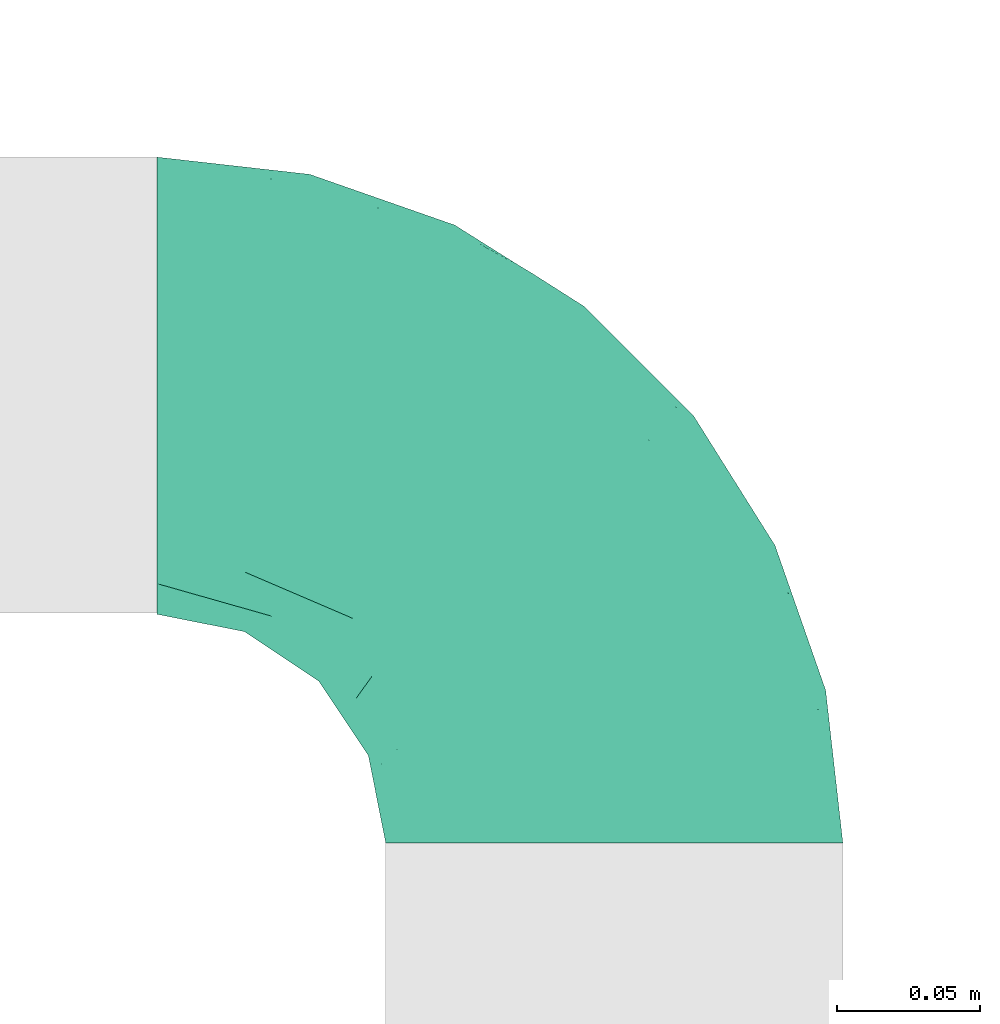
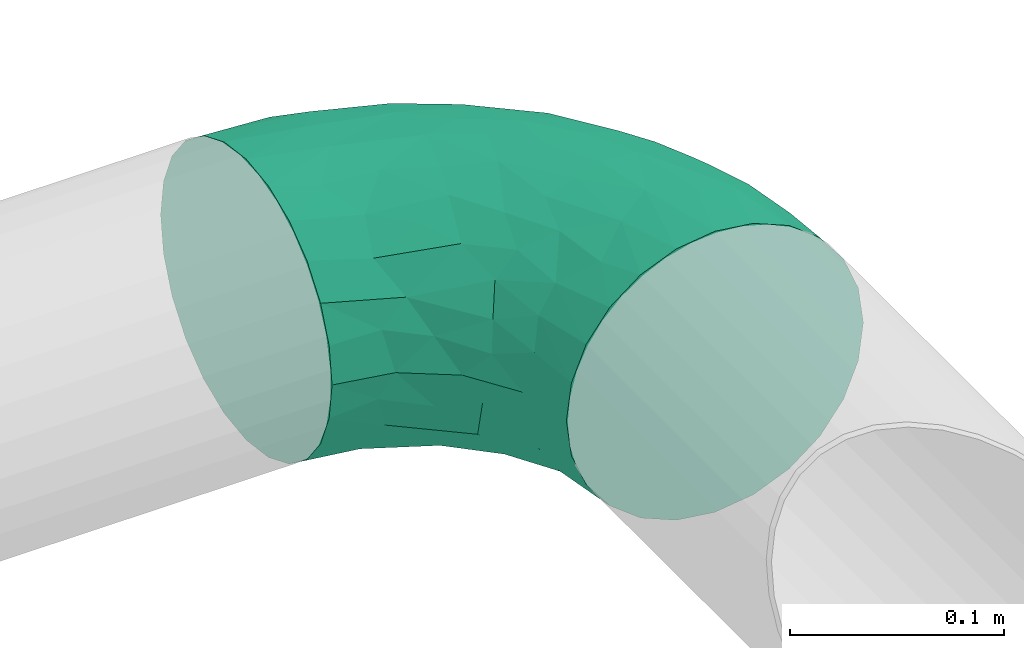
# One storey, part 7 of 10: 1 flow fitting.
"""IFC2X3 building model written with IfcOpenShell, lengths in millimetres."""

from ifc_helpers import new_model, entity, si_unit, converted_unit, derived_unit, direction, frame, origin_with_axes, place, context, subcontext, project, spatial, open_shell, surface_model, source, transform, mapped, type_object, element, save


model = new_model("IFC2X3")

# Units and contexts
model_context = context("Model", 3, precision=0.01, world=frame((0.0, 4.29681676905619e-09, 0.0)), true_north=direction((4.01073788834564e-13, 1.0)))
plan_context = context("Plan", 3, precision=0.01, world=frame((0.0, 4.29681676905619e-09, 0.0)), true_north=direction((4.01073788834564e-13, 1.0)))
body_context = subcontext(model_context, "Body", "Model", "MODEL_VIEW")
ifc_project = project(units=[converted_unit("PLANEANGLEUNIT", "DEGREE", entity("IfcPositiveLengthMeasure", 0.0174532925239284), si_unit("PLANEANGLEUNIT", "RADIAN"), dimensions=[0, 0, 0, 0, 0, 0, 0]), si_unit("AREAUNIT", "SQUARE_METRE"), si_unit("LENGTHUNIT", "METRE", prefix="MILLI"), si_unit("MASSUNIT", "GRAM", prefix="KILO"), si_unit("POWERUNIT", "WATT"), si_unit("PRESSUREUNIT", "PASCAL"), si_unit("FORCEUNIT", "NEWTON", prefix="KILO"), si_unit("ELECTRICCURRENTUNIT", "AMPERE"), si_unit("THERMODYNAMICTEMPERATUREUNIT", "DEGREE_CELSIUS"), si_unit("TIMEUNIT", "SECOND"), si_unit("VOLUMEUNIT", "CUBIC_METRE"), derived_unit("LINEARVELOCITYUNIT", [(si_unit("LENGTHUNIT", "METRE"), 1), (si_unit("TIMEUNIT", "SECOND"), -1)]), derived_unit("VOLUMETRICFLOWRATEUNIT", [(si_unit("VOLUMEUNIT", "CUBIC_METRE"), 1), (si_unit("TIMEUNIT", "SECOND"), -1)]), derived_unit("THERMALTRANSMITTANCEUNIT", [(si_unit("POWERUNIT", "WATT"), 1), (si_unit("THERMODYNAMICTEMPERATUREUNIT", "KELVIN"), -1), (si_unit("AREAUNIT", "SQUARE_METRE"), -1)])], contexts=[model_context, plan_context])

# Site, building, storey
site_placement = place(None, frame((0.0, -4.29681676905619e-09, 0.0), z_axis=(0.0, 0.0, 1.0), x_axis=(1.0, 0.0, 0.0)))
site = spatial("IfcSite", under=ifc_project, at=site_placement, CompositionType="ELEMENT")
building_placement = place(site_placement, frame((0.0, 4.29681676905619e-09, 0.0), z_axis=(0.0, 0.0, 1.0), x_axis=(1.0, 0.0, 0.0)))
building = spatial("IfcBuilding", under=site, at=building_placement, Name="mc-building", CompositionType="ELEMENT")
storey_placement = place(building_placement, frame((0.0, 0.0, 200300.0), z_axis=(0.0, 0.0, 1.0), x_axis=(1.0, 0.0, 0.0)))
storey = spatial("IfcBuildingStorey", under=building, at=storey_placement, Name="Nivå C", CompositionType="ELEMENT", Elevation=200300.0)

# Flow fitting
duct_fitting_type = type_object("IfcDuctFittingType", Name="magicirc_elbow_full_radius_001", PredefinedType="BEND")
shared_shape = source(origin_with_axes(), body_context, "Body", "SurfaceModel", [
    surface_model("IfcShellBasedSurfaceModel", [(-160.0, 40.0, -69.28203), (-160.0, 20.70552, -77.27406), (-160.0, 56.56854, -56.56854), (-160.0, 77.27406, -20.70552), (-160.0, 69.28203, -40.0), (-160.0, -80.0, 0.0), (-160.0, 69.28203, 40.0), (-160.0, -40.0, -69.28203), (-160.0, -56.56854, -56.56854), (-160.0, -20.70552, -77.27406), (-160.0, 0.0, -80.0), (-160.0, -77.27406, -20.70552), (-160.0, -69.28203, -40.0), (-160.0, 80.0, 0.0), (-160.0, 77.27406, 20.70552), (-160.0, 20.70552, 77.27406), (-160.0, 40.0, 69.28203), (-160.0, 56.56854, 56.56854), (-160.0, -56.56854, 56.56854), (-160.0, -77.27406, 20.70552), (-160.0, -69.28203, 40.0), (-160.0, -40.0, 69.28203), (-160.0, -20.70552, 77.27406), (-160.0, 0.0, 80.0), (-56.56854, 160.0, -56.56854), (0.0, 160.0, -80.0), (-20.70552, 160.0, -77.27406), (-40.0, 160.0, -69.28203), (-69.28203, 160.0, -40.0), (-77.27406, 160.0, -20.70552), (80.0, 160.0, 0.0), (-69.28203, 160.0, 40.0), (20.70552, 160.0, -77.27406), (56.56854, 160.0, -56.56854), (40.0, 160.0, -69.28203), (69.28203, 160.0, -40.0), (77.27406, 160.0, -20.70552), (-80.0, 160.0, 0.0), (-77.27406, 160.0, 20.70552), (-20.70552, 160.0, 77.27406), (-40.0, 160.0, 69.28203), (-56.56854, 160.0, 56.56854), (69.28203, 160.0, 40.0), (77.27406, 160.0, 20.70552), (56.56854, 160.0, 56.56854), (20.70552, 160.0, 77.27406), (40.0, 160.0, 69.28203), (0.0, 160.0, 80.0), (-7.67266, -21.79675, 21.05868), (8.63855, -8.63855, 0.0), (17.96443, 2.02525, 17.92911), (-140.16743, -77.7654, 0.0), (-106.59497, -73.9827, 0.0), (29.723, 108.68797, 71.16791), (-113.34063, -71.33168, 25.00935), (-123.58725, -11.32442, 78.55215), (-114.19463, 11.05185, 79.89136), (-120.89343, -62.92105, 44.73211), (-136.99007, 48.21133, 65.545), (-125.7428, 66.03381, 52.93316), (-72.81456, -60.8982, 19.91644), (-77.58343, -53.98906, 39.94873), (-42.50524, -35.90229, 41.43184), (-78.86833, -44.65396, 52.74557), (-108.99664, -47.43106, 59.38038), (-29.52166, 137.08777, 75.11566), (-10.11947, 120.85712, 79.83775), (-127.20537, 76.05333, 38.95505), (-33.44529, 31.50023, 77.36687), (-34.69782, 11.8754, 72.40877), (-3.9576, 41.66922, 71.52512), (26.83187, 21.52362, 33.70108), (11.94711, 15.99749, 47.62133), (4.03845, -4.03845, 34.90131), (-18.64804, 58.23046, 78.73392), (1.70441, 78.44684, 77.16576), (-24.59292, 77.35902, 79.98833), (-125.32148, 30.47275, 75.68771), (-120.22316, -31.11828, 71.8331), (13.78959, 36.02184, 59.49761), (-18.41896, 8.35587, 64.39884), (-132.46869, 81.36377, 22.79543), (-109.35207, 90.31178, 30.75773), (-113.43236, 93.30979, 14.57874), (-10.36245, -27.63956, 0.0), (-36.91073, -42.2953, 22.39915), (-49.76605, 124.95383, 66.59528), (-101.74646, 84.83423, 46.77127), (-83.4551, 69.09578, 68.59861), (-57.8183, 57.8183, 78.48541), (-61.03511, 86.31331, 71.12888), (-80.8816, 133.85749, 22.82614), (11.25, 122.68883, 78.52964), (-88.50247, 50.40579, 74.50178), (-88.28983, 33.35155, 78.68251), (48.70462, 119.33927, 60.25141), (72.29282, 119.98009, 25.83104), (-59.34673, 32.67512, 79.9668), (-85.16996, 17.5912, 79.99524), (-55.81318, 11.32632, 77.0441), (-85.00849, -30.99985, 66.01123), (61.00402, 106.81813, 43.23186), (-63.63219, 104.75463, 63.29969), (-65.20844, 129.34523, 52.48684), (-81.52275, 91.34159, 57.39681), (-80.52734, 120.37798, 36.48088), (-92.79431, 112.52422, 18.97703), (77.7654, 140.16743, 0.0), (45.79804, 48.13306, 29.8135), (39.33304, 28.76653, 14.61158), (-86.08964, 129.38533, 0.0), (-103.43146, 103.43146, 0.0), (38.36592, 71.69521, 55.99832), (-129.38533, 86.08964, 0.0), (-33.86953, 107.56813, 76.49949), (18.04365, 71.78656, 70.01725), (62.2021, 82.62707, 27.05087), (52.38442, 74.10967, 40.32307), (-18.93284, -12.03044, 49.97072), (-81.23144, -65.10761, 0.0), (-55.8679, -56.23253, 0.0), (35.27083, 45.78049, 44.88351), (-100.73084, 72.28591, 58.89814), (-54.51985, -28.62932, 57.01532), (-52.59501, -10.07531, 68.60505), (-46.29588, 82.13982, 76.86014), (-38.63384, 52.61378, 79.97363), (-82.56986, -3.10078, 77.31631), (-108.41978, 53.99493, 68.019), (27.63956, 10.36245, 0.0), (41.93604, 33.11518, 0.0), (54.6063, 56.19906, 15.96171), (65.10761, 81.23144, 0.0), (73.9827, 106.59497, 0.0), (-33.11518, -41.93604, 0.0), (56.23253, 55.8679, 0.0), (-141.1977, 47.96131, -65.17319), (-64.44895, -19.03971, -67.4984), (-103.35167, -28.84014, -70.84909), (-70.80597, -2.08408, -75.9918), (-126.24815, 9.57583, -79.78686), (-92.41851, 111.96589, -21.39074), (-124.421, 30.58775, -75.73032), (-89.68718, 45.45889, -75.79365), (-72.7608, 72.76079, -71.12383), (-50.5252, 60.84727, -79.04915), (-131.39164, 83.13047, -17.86609), (-77.1981, 130.02354, -34.99688), (-109.68436, 96.08636, -14.59494), (-99.17231, 92.66183, -40.04471), (3.27066, -3.27066, -37.05737), (23.87018, 16.11689, -31.6452), (7.48215, -9.43108, -16.69956), (-127.69248, 65.57033, -52.69138), (-129.61888, 77.314, -35.05803), (14.19084, 23.61418, -51.48454), (6.36549, 39.84455, -65.9943), (-25.94451, -2.03239, -62.20998), (-26.59802, 26.59801, -74.69048), (-115.41173, 51.90171, -67.41842), (-118.93035, -72.15419, -25.70176), (-135.39431, -63.9394, -46.23407), (-49.36384, 127.30443, -66.39144), (-31.70102, 117.35326, -76.05932), (32.6897, 37.51953, -41.6191), (-117.97423, -48.56637, -60.13786), (-34.90372, -29.85168, -43.15761), (-38.30539, -41.45281, -26.85807), (-65.92648, -49.3744, -39.5542), (-102.66536, -60.2608, -42.78019), (-62.2887, -34.90476, -55.07246), (72.15419, 118.93035, -25.70176), (60.87615, 76.45775, -24.52708), (60.2608, 102.66536, -42.78019), (-135.79353, -31.90262, -72.68345), (-76.45775, -60.87615, -24.52708), (-16.2755, -23.90667, -31.80484), (41.45281, 38.30539, -26.85807), (29.85056, 15.89181, -16.16732), (10.9954, 119.95821, -78.46006), (-82.01415, 136.57063, -15.05464), (-119.95822, -10.9954, -78.46006), (48.56636, 117.97423, -60.13786), (31.90262, 135.79353, -72.68345), (-9.57583, 126.24814, -79.78686), (63.9394, 135.39431, -46.23407), (49.3744, 65.92648, -39.5542), (-16.01966, -29.80786, -16.69762), (-63.81137, 36.54386, -79.9236), (-30.67208, 51.19767, -79.49125), (-53.65888, 23.04044, -78.87036), (2.08408, 70.80596, -75.9918), (28.84014, 103.35167, -70.84909), (34.90476, 62.2887, -55.07246), (-17.62209, 87.93848, -79.99888), (18.59902, 70.56114, -69.43027), (-95.91193, 73.87581, -60.23528), (-37.74115, 88.00927, -77.92086), (-63.46095, 140.83483, -51.07129), (-68.41389, 95.24352, -64.12485), (-51.13608, 97.13293, -72.27976), (-83.6892, 93.72418, -54.10776), (-87.93848, 17.62208, -79.99888), (-43.59797, 2.06669, -71.34384), (-69.04822, 115.75437, -54.18349), (-8.80879, -2.12536, -50.94302)], [open_shell([[[0, 1, 2]], [[3, 4, 2]], [[2, 5, 6]], [[7, 8, 9]], [[8, 10, 9]], [[11, 5, 12]], [[8, 12, 5]], [[8, 5, 2]], [[13, 3, 2]], [[6, 14, 13]], [[5, 15, 6]], [[6, 15, 16]], [[17, 6, 16]], [[18, 15, 5]], [[19, 20, 5]], [[5, 20, 18]], [[21, 22, 18]], [[22, 15, 18]], [[15, 22, 23]], [[6, 13, 2]], [[24, 25, 26]], [[24, 26, 27]], [[24, 28, 29]], [[25, 24, 30]], [[31, 30, 24]], [[32, 33, 34]], [[32, 25, 33]], [[35, 30, 36]], [[30, 35, 33]], [[25, 30, 33]], [[24, 29, 37]], [[37, 38, 31]], [[31, 39, 30]], [[40, 39, 31]], [[40, 31, 41]], [[30, 42, 43]], [[44, 42, 30]], [[44, 45, 46]], [[47, 45, 39]], [[24, 37, 31]], [[48, 49, 50]], [[51, 52, 19]], [[53, 46, 45]], [[54, 20, 19]], [[54, 19, 52]], [[23, 55, 56]], [[20, 57, 18]], [[17, 58, 59]], [[54, 60, 61]], [[62, 63, 61]], [[64, 18, 57]], [[39, 65, 66]], [[6, 59, 67]], [[68, 69, 70]], [[71, 72, 73]], [[22, 55, 23]], [[74, 75, 76]], [[16, 15, 77]], [[21, 64, 78]], [[79, 70, 80]], [[77, 15, 56]], [[59, 6, 17]], [[81, 13, 14]], [[81, 82, 83]], [[84, 48, 85]], [[40, 41, 86]], [[82, 67, 87]], [[88, 89, 90]], [[17, 16, 58]], [[23, 56, 15]], [[64, 21, 18]], [[31, 38, 91]], [[47, 92, 45]], [[93, 77, 94]], [[44, 46, 95]], [[43, 42, 96]], [[97, 98, 99]], [[47, 39, 66]], [[64, 100, 78]], [[96, 42, 101]], [[66, 92, 47]], [[95, 46, 53]], [[102, 103, 104]], [[87, 105, 82]], [[82, 105, 106]], [[96, 107, 43]], [[91, 106, 105]], [[21, 78, 22]], [[108, 71, 109]], [[37, 110, 91]], [[91, 110, 106]], [[106, 111, 83]], [[44, 101, 42]], [[111, 106, 110]], [[95, 112, 101]], [[103, 86, 41]], [[83, 111, 113]], [[90, 114, 86]], [[79, 115, 70]], [[116, 117, 108]], [[75, 70, 115]], [[86, 114, 65]], [[65, 39, 40]], [[72, 118, 73]], [[64, 57, 63]], [[116, 96, 101]], [[119, 120, 60]], [[66, 76, 75]], [[57, 54, 61]], [[121, 108, 117]], [[50, 109, 71]], [[87, 122, 104]], [[81, 67, 82]], [[41, 31, 103]], [[90, 102, 104]], [[76, 66, 114]], [[92, 75, 53]], [[62, 118, 123]], [[123, 124, 100]], [[104, 122, 88]], [[125, 114, 90]], [[125, 76, 114]], [[89, 94, 97]], [[126, 89, 97]], [[99, 124, 69]], [[117, 116, 101]], [[86, 65, 40]], [[112, 95, 53]], [[101, 44, 95]], [[64, 63, 100]], [[55, 78, 127]], [[94, 77, 56]], [[58, 77, 128]], [[54, 57, 20]], [[57, 61, 63]], [[113, 13, 81]], [[106, 83, 82]], [[31, 105, 103]], [[104, 103, 105]], [[75, 92, 66]], [[53, 45, 92]], [[78, 55, 22]], [[56, 55, 127]], [[94, 98, 97]], [[89, 88, 93]], [[113, 81, 83]], [[67, 14, 6]], [[67, 81, 14]], [[59, 122, 87]], [[59, 87, 67]], [[105, 87, 104]], [[94, 56, 98]], [[68, 74, 126]], [[109, 129, 130]], [[73, 118, 62]], [[59, 128, 122]], [[88, 122, 128]], [[88, 128, 93]], [[104, 88, 90]], [[77, 93, 128]], [[89, 93, 94]], [[109, 131, 108]], [[96, 132, 133]], [[124, 123, 80]], [[127, 78, 100]], [[69, 124, 80]], [[127, 100, 124]], [[101, 112, 117]], [[121, 117, 112]], [[79, 121, 112]], [[71, 108, 121]], [[53, 75, 115]], [[123, 118, 80]], [[72, 121, 79]], [[50, 71, 73]], [[50, 73, 48]], [[50, 129, 109]], [[121, 72, 71]], [[80, 72, 79]], [[80, 118, 72]], [[63, 62, 123]], [[79, 112, 115]], [[74, 70, 75]], [[61, 85, 62]], [[62, 85, 48]], [[62, 48, 73]], [[85, 120, 134]], [[131, 130, 135]], [[130, 131, 109]], [[131, 135, 132]], [[116, 108, 131]], [[132, 96, 116]], [[131, 132, 116]], [[112, 53, 115]], [[70, 69, 80]], [[99, 69, 68]], [[97, 99, 68]], [[124, 99, 127]], [[77, 58, 16]], [[59, 58, 128]], [[19, 5, 51]], [[107, 96, 133]], [[107, 30, 43]], [[66, 65, 114]], [[31, 91, 105]], [[91, 38, 37]], [[85, 60, 120]], [[54, 52, 119]], [[100, 63, 123]], [[90, 86, 102]], [[103, 102, 86]], [[90, 89, 125]], [[76, 125, 89]], [[126, 74, 76]], [[70, 74, 68]], [[89, 126, 76]], [[68, 126, 97]], [[56, 127, 98]], [[99, 98, 127]], [[49, 48, 84]], [[134, 84, 85]], [[49, 129, 50]], [[61, 60, 85]], [[119, 60, 54]], [[0, 2, 136]], [[137, 138, 139]], [[10, 1, 140]], [[110, 141, 111]], [[142, 1, 0]], [[143, 144, 145]], [[113, 146, 13]], [[147, 29, 28]], [[148, 149, 146]], [[150, 151, 152]], [[153, 4, 154]], [[150, 155, 151]], [[156, 157, 158]], [[136, 153, 159]], [[160, 12, 161]], [[162, 27, 163]], [[160, 51, 11]], [[151, 155, 164]], [[165, 8, 7]], [[166, 167, 168]], [[169, 165, 170]], [[35, 36, 171]], [[171, 172, 173]], [[160, 11, 12]], [[7, 174, 165]], [[160, 175, 119]], [[166, 176, 167]], [[7, 9, 174]], [[175, 168, 167]], [[177, 130, 178]], [[148, 111, 141]], [[175, 160, 169]], [[146, 149, 154]], [[32, 179, 25]], [[29, 180, 37]], [[0, 136, 142]], [[138, 181, 139]], [[180, 147, 141]], [[149, 141, 147]], [[33, 182, 34]], [[183, 179, 32]], [[26, 184, 163]], [[185, 33, 35]], [[184, 26, 25]], [[8, 161, 12]], [[24, 27, 162]], [[26, 163, 27]], [[32, 34, 183]], [[177, 186, 172]], [[187, 134, 167]], [[188, 189, 190]], [[191, 156, 158]], [[183, 182, 192]], [[174, 181, 138]], [[192, 182, 193]], [[181, 9, 10]], [[171, 107, 133]], [[159, 143, 142]], [[2, 4, 153]], [[171, 173, 185]], [[110, 180, 141]], [[194, 179, 191]], [[156, 191, 195]], [[159, 153, 196]], [[197, 145, 144]], [[28, 24, 198]], [[199, 162, 200]], [[199, 196, 201]], [[172, 186, 173]], [[185, 182, 33]], [[193, 182, 173]], [[191, 179, 192]], [[184, 179, 194]], [[195, 193, 156]], [[189, 191, 158]], [[171, 36, 107]], [[171, 132, 172]], [[170, 165, 138]], [[161, 165, 169]], [[140, 181, 10]], [[139, 181, 202]], [[158, 190, 189]], [[203, 137, 139]], [[168, 175, 169]], [[36, 30, 107]], [[154, 4, 3]], [[159, 196, 144]], [[143, 159, 144]], [[140, 142, 202]], [[200, 162, 163]], [[198, 162, 204]], [[146, 154, 3]], [[149, 153, 154]], [[198, 147, 28]], [[147, 204, 201]], [[175, 120, 119]], [[169, 170, 168]], [[143, 188, 202]], [[119, 52, 160]], [[142, 140, 1]], [[181, 140, 202]], [[179, 184, 25]], [[163, 184, 194]], [[153, 149, 196]], [[199, 201, 204]], [[197, 144, 200]], [[202, 142, 143]], [[189, 145, 194]], [[143, 145, 188]], [[193, 155, 156]], [[166, 157, 205]], [[157, 156, 155]], [[137, 170, 138]], [[200, 163, 197]], [[199, 200, 144]], [[196, 199, 144]], [[162, 199, 204]], [[196, 149, 201]], [[147, 201, 149]], [[193, 186, 164]], [[205, 155, 150]], [[163, 194, 197]], [[194, 145, 197]], [[13, 146, 3]], [[113, 111, 148]], [[164, 186, 177]], [[193, 173, 186]], [[164, 177, 151]], [[193, 164, 155]], [[177, 178, 151]], [[152, 129, 49]], [[152, 151, 178]], [[176, 187, 167]], [[172, 135, 177]], [[130, 177, 135]], [[130, 129, 178]], [[166, 168, 170]], [[157, 166, 170]], [[176, 166, 150]], [[191, 189, 194]], [[203, 190, 158]], [[139, 202, 190]], [[188, 190, 202]], [[150, 152, 176]], [[187, 176, 152]], [[152, 84, 187]], [[134, 120, 167]], [[187, 84, 134]], [[120, 175, 167]], [[189, 188, 145]], [[51, 160, 52]], [[51, 5, 11]], [[182, 183, 34]], [[179, 183, 192]], [[171, 185, 35]], [[182, 185, 173]], [[181, 174, 9]], [[165, 174, 138]], [[165, 161, 8]], [[160, 161, 169]], [[37, 180, 110]], [[147, 180, 29]], [[162, 198, 24]], [[147, 198, 204]], [[153, 136, 2]], [[142, 136, 159]], [[139, 190, 203]], [[157, 170, 137]], [[158, 157, 203]], [[157, 137, 203]], [[132, 171, 133]], [[132, 135, 172]], [[191, 192, 195]], [[193, 195, 192]], [[166, 205, 150]], [[157, 155, 205]], [[149, 148, 141]], [[113, 148, 146]], [[129, 152, 178]], [[49, 84, 152]], [[1, 10, 2]], [[8, 2, 10]], [[39, 45, 30]], [[30, 45, 44]]])]),
])
flow_fitting_placement = place(storey_placement, frame((520942.6375, 404861.0, 2880.0), z_axis=(0.0, 0.0, 1.0), x_axis=(0.0, 1.0, 0.0)))
element("IfcFlowFitting", 1, at=flow_fitting_placement, inside=storey, type_object=duct_fitting_type, Name="magicirc_elbow_full_radius_001", context=body_context, shape_type="MappedRepresentation", body=[
    mapped(shared_shape, transform((0.0, 0.0, 0.0), scale=1.0)),
])

save(model, "model.ifc")
